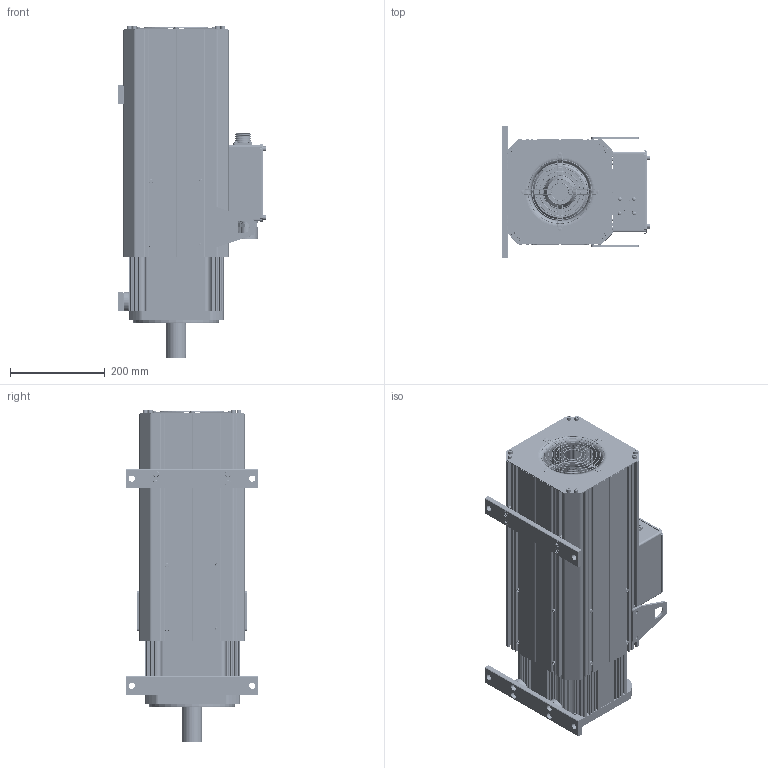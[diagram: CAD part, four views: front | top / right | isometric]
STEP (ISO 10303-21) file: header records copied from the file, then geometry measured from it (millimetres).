
FILE_DESCRIPTION((''),'2;1');
FILE_NAME('K111F15C18P_18KW_ASM','2023-05-23T14:33:41',('admin'),(''),'CREO PARAMETRIC BY PTC INC, 2019080','CREO PARAMETRIC BY PTC INC, 2019080','');
FILE_SCHEMA(('CONFIG_CONTROL_DESIGN'));
Products named in the file (45): QDG_10600-00001; ZZ_12400-04005_18KW; ZC_30400-00001; ZC_30400-01002; ZCZDQ_11200-00001; ZZZJ_80500-04005_18KW_ASM; O-RING_50000-01002; JK_K111_10200-39040; DZZJ_80200-00083_15KW_ASM; FDB_K111_12900-66067; DEGDT_11500-02003; DE_11300-00001; O-RING_50000-02003; YXHQ_20300-00001; O-RING_50000-03004; JXHT_41000-09010; JXHG_41000-00001; JXHGDK_11600-04005; M6X10; XJD_50800-11012; AD13_1; AD42P5_3; MFD_YD28-15P; HKXZ_YD28-15P_40100-00001; PDLD_4X12; JXHZJ_81100-00002_ASM; M5X25; HDG_21200-00001; M8X30; HGB_21600-00001; M4X10; FJ_40000-03004; M4X12; FJFHB_11100-02003; FHW_30500-00001; PDQ_4; MD_4; FJFHBZZ_ASM; QZCJ_10400-15016; DK_12800-32033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
Assembly tree (114 placements, depth 3):
  K111F15C18P_18KW_ASM
    QDG_10600-00001
    ZZZJ_80500-04005_18KW_ASM
      ZZ_12400-04005_18KW
      ZC_30400-00001
      ZC_30400-01002
      ZCZDQ_11200-00001
    O-RING_50000-01002
    DZZJ_80200-00083_15KW_ASM
      JK_K111_10200-39040
    FDB_K111_12900-66067
    DEGDT_11500-02003  x2
    DE_11300-00001  x2
    O-RING_50000-02003
    YXHQ_20300-00001
    O-RING_50000-03004
    JXHZJ_81100-00002_ASM
      JXHT_41000-09010
      JXHG_41000-00001
      JXHGDK_11600-04005  x4
      M6X10  x8
      XJD_50800-11012
      AD13_1
      AD42P5_3
      MFD_YD28-15P
      HKXZ_YD28-15P_40100-00001
      PDLD_4X12  x4
    M5X25  x16
    HDG_21200-00001
    M8X30  x16
    HGB_21600-00001
    M4X10  x4
    FJ_40000-03004
    M4X12  x4
    FJFHBZZ_ASM
      FJFHB_11100-02003
      FHW_30500-00001
      PDQ_4  x4
      MD_4  x4
    M6X10  x8
    ZCJZJ_22300-00007_15KW_ASM
      QZCJ_10400-15016
      DK_12800-32033  x2
      HZCJ_10400-16017
      GDK_11600-09010  x2
      M8X16  x4
Bounding box: 312.35 x 278 x 699 mm (x, y, z)
Volume: 9572651.7 mm3; surface area: 3461647.4 mm2
Topology: 123 solids, 127 shells, 6025 faces, 15826 edges, 10239 vertices
Faces by surface type: plane 2899, cylinder 2331, cone 350, torus 267, bspline 160, sphere 18
Entity records: 164413 total; most frequent: CARTESIAN_POINT 39863, DIRECTION 26411, ORIENTED_EDGE 25900, EDGE_CURVE 12958, AXIS2_PLACEMENT_3D 9354, VERTEX_POINT 8472, VECTOR 7703, LINE 7703
